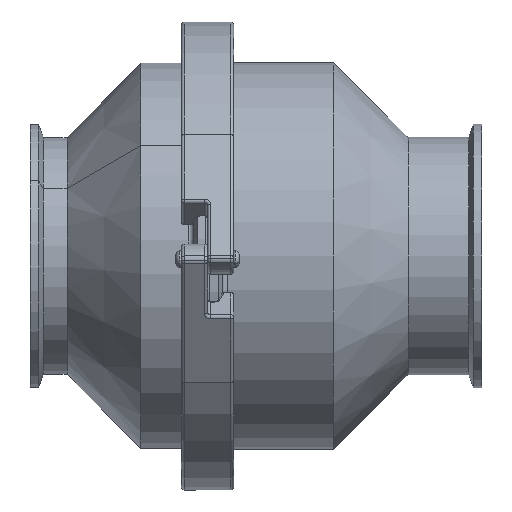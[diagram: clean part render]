
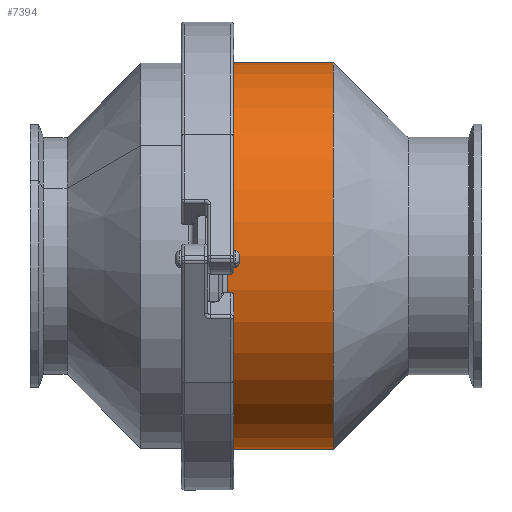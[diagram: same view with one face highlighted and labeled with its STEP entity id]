
A CAD part, left-side view. The second image highlights one B-rep face of the part: STEP entity #7394.
In plain terms, the highlighted cylindrical face has radius 66.675 mm (diameter 133.35 mm), a partial arc.
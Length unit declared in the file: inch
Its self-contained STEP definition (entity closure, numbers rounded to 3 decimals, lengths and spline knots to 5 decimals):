
#445 = AXIS2_PLACEMENT_3D ( 'NONE', #3454, #13070, #4832 ) ;
#1663 = FACE_OUTER_BOUND ( 'NONE', #6572, .T. ) ;
#2365 = CIRCLE ( 'NONE', #445, 2.625 ) ;
#2578 = CARTESIAN_POINT ( 'NONE',  ( 1.76451, 2.43553, 7.66235 ) ) ;
#2667 = ORIENTED_EDGE ( 'NONE', *, *, #3503, .T. ) ;
#3166 = LINE ( 'NONE', #9415, #10034 ) ;
#3268 = AXIS2_PLACEMENT_3D ( 'NONE', #5586, #16552, #4165 ) ;
#3454 = CARTESIAN_POINT ( 'NONE',  ( 1.76451, 3.87398, 5.03735 ) ) ;
#3503 = EDGE_CURVE ( 'NONE', #5313, #15050, #17006, .T. ) ;
#4158 = DIRECTION ( 'NONE',  ( 0., -1., 0. ) ) ;
#4165 = DIRECTION ( 'NONE',  ( 0., 0., -1. ) ) ;
#4595 = CARTESIAN_POINT ( 'NONE',  ( 1.76451, 3.87398, 7.66235 ) ) ;
#4832 = DIRECTION ( 'NONE',  ( 0., 0., -1. ) ) ;
#5313 = VERTEX_POINT ( 'NONE', #10223 ) ;
#5586 = CARTESIAN_POINT ( 'NONE',  ( 1.76451, 4.11053, 5.03735 ) ) ;
#6572 = EDGE_LOOP ( 'NONE', ( #13549, #6773, #2667, #16736 ) ) ;
#6773 = ORIENTED_EDGE ( 'NONE', *, *, #10738, .T. ) ;
#6911 = EDGE_CURVE ( 'NONE', #14337, #15050, #14590, .T. ) ;
#7281 = CARTESIAN_POINT ( 'NONE',  ( 1.76451, 2.43553, 2.41235 ) ) ;
#7394 = ADVANCED_FACE ( 'NONE', ( #1663 ), #12200, .T. ) ;
#8084 = DIRECTION ( 'NONE',  ( 0., -1., 0. ) ) ;
#9415 = CARTESIAN_POINT ( 'NONE',  ( 1.76451, 4.11053, 7.66235 ) ) ;
#9687 = VECTOR ( 'NONE', #4158, 39.37008 ) ;
#10034 = VECTOR ( 'NONE', #10802, 39.37008 ) ;
#10223 = CARTESIAN_POINT ( 'NONE',  ( 1.76451, 3.87398, 2.41235 ) ) ;
#10348 = VERTEX_POINT ( 'NONE', #4595 ) ;
#10738 = EDGE_CURVE ( 'NONE', #10348, #5313, #2365, .T. ) ;
#10802 = DIRECTION ( 'NONE',  ( 0., -1., 0. ) ) ;
#11136 = CARTESIAN_POINT ( 'NONE',  ( 1.76451, 4.11053, 2.41235 ) ) ;
#12200 = CYLINDRICAL_SURFACE ( 'NONE', #3268, 2.625 ) ;
#12579 = AXIS2_PLACEMENT_3D ( 'NONE', #16329, #8084, #17682 ) ;
#13070 = DIRECTION ( 'NONE',  ( 0., -1., 0. ) ) ;
#13549 = ORIENTED_EDGE ( 'NONE', *, *, #14327, .F. ) ;
#14327 = EDGE_CURVE ( 'NONE', #10348, #14337, #3166, .T. ) ;
#14337 = VERTEX_POINT ( 'NONE', #2578 ) ;
#14590 = CIRCLE ( 'NONE', #12579, 2.625 ) ;
#15050 = VERTEX_POINT ( 'NONE', #7281 ) ;
#16329 = CARTESIAN_POINT ( 'NONE',  ( 1.76451, 2.43553, 5.03735 ) ) ;
#16552 = DIRECTION ( 'NONE',  ( 0., -1., 0. ) ) ;
#16736 = ORIENTED_EDGE ( 'NONE', *, *, #6911, .F. ) ;
#17006 = LINE ( 'NONE', #11136, #9687 ) ;
#17682 = DIRECTION ( 'NONE',  ( 0., 0., -1. ) ) ;
